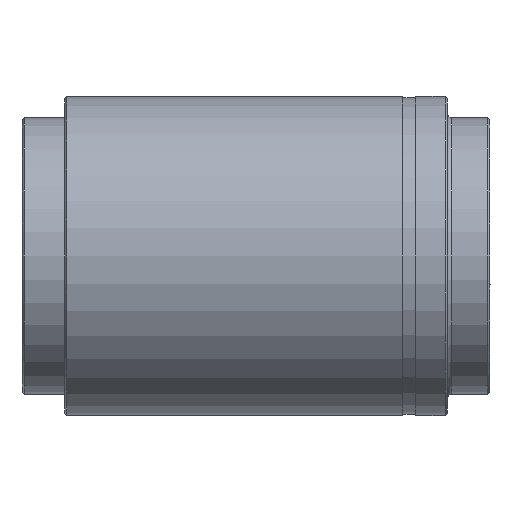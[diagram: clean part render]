
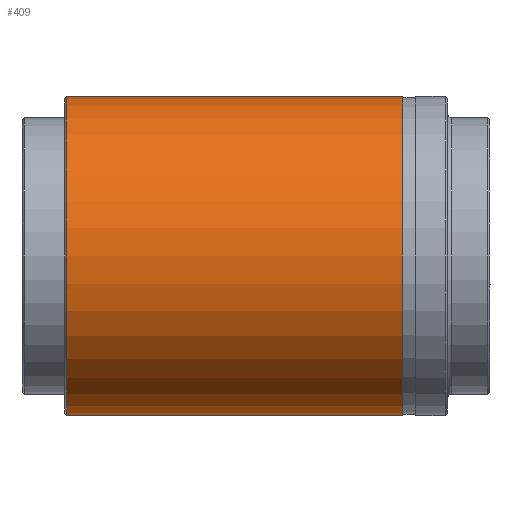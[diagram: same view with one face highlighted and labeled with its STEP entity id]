
A CAD part, left-side view. The second image highlights one B-rep face of the part: STEP entity #409.
In plain terms, the highlighted cylindrical face has radius 7.5 mm (diameter 15 mm), a partial arc.
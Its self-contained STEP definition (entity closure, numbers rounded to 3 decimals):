
#409 = ADVANCED_FACE ( 'NONE', ( #7536 ), #8993, .T. ) ;
#487 = EDGE_CURVE ( 'NONE', #16239, #10357, #2361, .T. ) ;
#2361 = LINE ( 'NONE', #4798, #15446 ) ;
#2891 = ORIENTED_EDGE ( 'NONE', *, *, #3255, .T. ) ;
#3255 = EDGE_CURVE ( 'NONE', #11937, #10357, #5822, .T. ) ;
#3407 = VECTOR ( 'NONE', #16469, 1000. ) ;
#3499 = VERTEX_POINT ( 'NONE', #7003 ) ;
#3663 = DIRECTION ( 'NONE',  ( 0., 1., 0. ) ) ;
#4220 = AXIS2_PLACEMENT_3D ( 'NONE', #10173, #10256, #11478 ) ;
#4798 = CARTESIAN_POINT ( 'NONE',  ( 0., 11., -7.5 ) ) ;
#4983 = CARTESIAN_POINT ( 'NONE',  ( 0., 11., 7.5 ) ) ;
#5735 = ORIENTED_EDGE ( 'NONE', *, *, #7166, .T. ) ;
#5822 = CIRCLE ( 'NONE', #7198, 7.5 ) ;
#6751 = CARTESIAN_POINT ( 'NONE',  ( 0., 8.9, 0. ) ) ;
#6895 = AXIS2_PLACEMENT_3D ( 'NONE', #16613, #3663, #14263 ) ;
#7003 = CARTESIAN_POINT ( 'NONE',  ( 0., -6.9, 7.5 ) ) ;
#7166 = EDGE_CURVE ( 'NONE', #16239, #3499, #8066, .T. ) ;
#7198 = AXIS2_PLACEMENT_3D ( 'NONE', #6751, #12024, #14516 ) ;
#7536 = FACE_OUTER_BOUND ( 'NONE', #12516, .T. ) ;
#7563 = EDGE_CURVE ( 'NONE', #3499, #11937, #10240, .T. ) ;
#8055 = CARTESIAN_POINT ( 'NONE',  ( 0., 8.9, -7.5 ) ) ;
#8066 = CIRCLE ( 'NONE', #4220, 7.5 ) ;
#8993 = CYLINDRICAL_SURFACE ( 'NONE', #6895, 7.5 ) ;
#9201 = CARTESIAN_POINT ( 'NONE',  ( 0., 8.9, 7.5 ) ) ;
#10173 = CARTESIAN_POINT ( 'NONE',  ( 0., -6.9, 0. ) ) ;
#10240 = LINE ( 'NONE', #4983, #3407 ) ;
#10256 = DIRECTION ( 'NONE',  ( 0., 1., 0. ) ) ;
#10357 = VERTEX_POINT ( 'NONE', #8055 ) ;
#11478 = DIRECTION ( 'NONE',  ( 0., 0., 1. ) ) ;
#11937 = VERTEX_POINT ( 'NONE', #9201 ) ;
#12024 = DIRECTION ( 'NONE',  ( 0., -1., 0. ) ) ;
#12516 = EDGE_LOOP ( 'NONE', ( #16012, #5735, #15102, #2891 ) ) ;
#14263 = DIRECTION ( 'NONE',  ( 0., 0., 1. ) ) ;
#14516 = DIRECTION ( 'NONE',  ( 0., 0., -1. ) ) ;
#15102 = ORIENTED_EDGE ( 'NONE', *, *, #7563, .T. ) ;
#15446 = VECTOR ( 'NONE', #15483, 1000. ) ;
#15483 = DIRECTION ( 'NONE',  ( 0., 1., 0. ) ) ;
#16012 = ORIENTED_EDGE ( 'NONE', *, *, #487, .F. ) ;
#16239 = VERTEX_POINT ( 'NONE', #16795 ) ;
#16469 = DIRECTION ( 'NONE',  ( 0., 1., 0. ) ) ;
#16613 = CARTESIAN_POINT ( 'NONE',  ( 0., 11., 0. ) ) ;
#16795 = CARTESIAN_POINT ( 'NONE',  ( 0., -6.9, -7.5 ) ) ;
